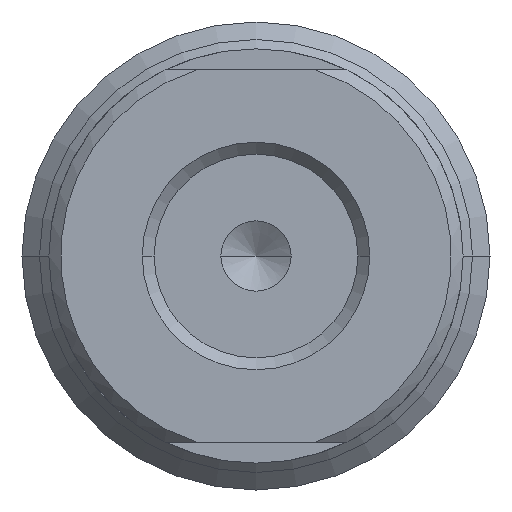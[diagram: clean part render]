
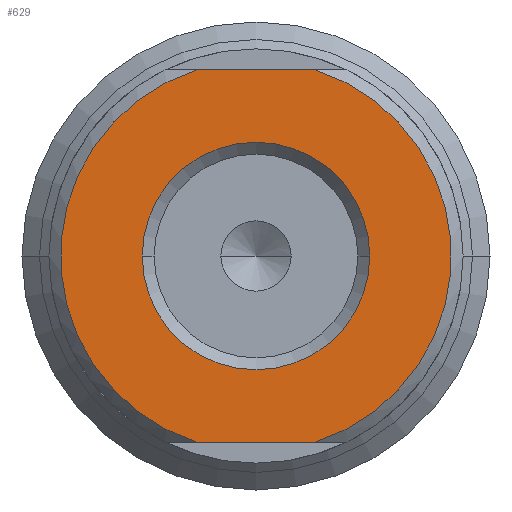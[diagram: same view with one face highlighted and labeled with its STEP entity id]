
A CAD part, left-side view. The second image highlights one B-rep face of the part: STEP entity #629.
In plain terms, the highlighted planar face has unit normal (-1, 0, 0).
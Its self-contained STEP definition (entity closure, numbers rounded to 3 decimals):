
#83=CARTESIAN_POINT('',(0.,0.,0.));
#84=DIRECTION('',(-1.,0.,0.));
#85=DIRECTION('',(0.,0.306,0.952));
#86=AXIS2_PLACEMENT_3D('',#83,#84,#85);
#88=CARTESIAN_POINT('',(0.,2.553,-7.95));
#110=CARTESIAN_POINT('',(0.,2.553,7.95));
#127=CARTESIAN_POINT('',(0.,-2.553,-7.95));
#129=CARTESIAN_POINT('',(0.,0.,0.));
#130=DIRECTION('',(-1.,0.,0.));
#131=DIRECTION('',(0.,-0.306,-0.952));
#132=AXIS2_PLACEMENT_3D('',#129,#130,#131);
#134=CARTESIAN_POINT('',(0.,-2.553,7.95));
#141=DIRECTION('',(0.,-1.,0.));
#142=VECTOR('',#141,5.107);
#143=CARTESIAN_POINT('',(0.,2.553,7.95));
#144=LINE('',#143,#142);
#145=DIRECTION('',(0.,1.,0.));
#146=VECTOR('',#145,5.107);
#147=CARTESIAN_POINT('',(0.,-2.553,-7.95));
#148=LINE('',#147,#146);
#149=CARTESIAN_POINT('',(0.,0.,0.));
#150=DIRECTION('',(1.,0.,0.));
#151=DIRECTION('',(0.,1.,0.));
#152=AXIS2_PLACEMENT_3D('',#149,#150,#151);
#154=CARTESIAN_POINT('',(0.,0.,0.));
#155=DIRECTION('',(1.,0.,0.));
#156=DIRECTION('',(0.,-1.,0.));
#157=AXIS2_PLACEMENT_3D('',#154,#155,#156);
#388=VERTEX_POINT('',#110);
#389=VERTEX_POINT('',#134);
#392=VERTEX_POINT('',#127);
#393=VERTEX_POINT('',#88);
#443=CARTESIAN_POINT('',(0.,4.864,0.));
#444=CARTESIAN_POINT('',(0.,-4.864,0.));
#445=VERTEX_POINT('',#443);
#446=VERTEX_POINT('',#444);
#610=CARTESIAN_POINT('',(0.,0.,0.));
#611=DIRECTION('',(1.,0.,0.));
#612=DIRECTION('',(0.,-1.,0.));
#613=AXIS2_PLACEMENT_3D('',#610,#611,#612);
#614=PLANE('',#613);
#615=ORIENTED_EDGE('',*,*,#581,.F.);
#617=ORIENTED_EDGE('',*,*,#616,.T.);
#618=ORIENTED_EDGE('',*,*,#603,.F.);
#620=ORIENTED_EDGE('',*,*,#619,.T.);
#621=EDGE_LOOP('',(#615,#617,#618,#620));
#622=FACE_OUTER_BOUND('',#621,.F.);
#624=ORIENTED_EDGE('',*,*,#623,.F.);
#626=ORIENTED_EDGE('',*,*,#625,.F.);
#627=EDGE_LOOP('',(#624,#626));
#628=FACE_BOUND('',#627,.F.);
#629=ADVANCED_FACE('',(#622,#628),#614,.F.);
#87=CIRCLE('',#86,8.35);
#133=CIRCLE('',#132,8.35);
#153=CIRCLE('',#152,4.864);
#158=CIRCLE('',#157,4.864);
#581=EDGE_CURVE('',#388,#393,#87,.T.);
#603=EDGE_CURVE('',#392,#389,#133,.T.);
#616=EDGE_CURVE('',#388,#389,#144,.T.);
#619=EDGE_CURVE('',#392,#393,#148,.T.);
#623=EDGE_CURVE('',#445,#446,#153,.T.);
#625=EDGE_CURVE('',#446,#445,#158,.T.);
